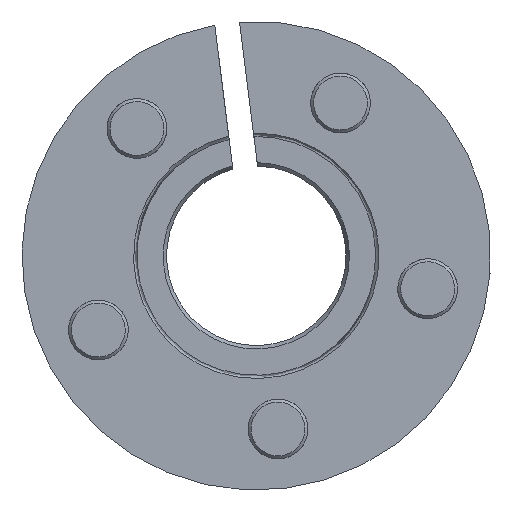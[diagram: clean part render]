
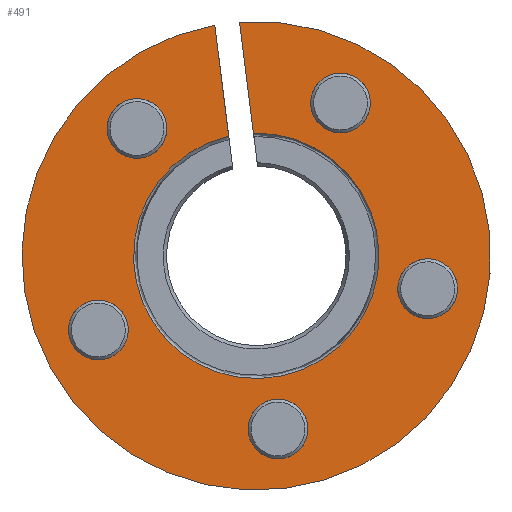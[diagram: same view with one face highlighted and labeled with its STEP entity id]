
A CAD part, left-side view. The second image highlights one B-rep face of the part: STEP entity #491.
In plain terms, the highlighted planar face has unit normal (-1, 0, 0) as drawn and (1, 0, 0) by its records, which use the part's own axes.
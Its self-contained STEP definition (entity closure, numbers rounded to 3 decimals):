
#112=CARTESIAN_POINT('',(17.,23.5,20.5));
#113=VERTEX_POINT('',#112);
#114=CARTESIAN_POINT('',(17.,23.5,17.5));
#115=DIRECTION('',(-1.0,0.0,0.0));
#116=DIRECTION('',(0.0,0.0,-1.0));
#117=AXIS2_PLACEMENT_3D('',#114,#115,#116);
#118=CIRCLE('',#117,3.);
#119=EDGE_CURVE('',#113,#113,#118,.T.);
#140=CARTESIAN_POINT('',(17.,13.214,-11.158));
#141=VERTEX_POINT('',#140);
#142=CARTESIAN_POINT('',(17.,13.214,-14.158));
#143=DIRECTION('',(-1.0,0.0,0.0));
#144=DIRECTION('',(0.0,0.0,-1.0));
#145=AXIS2_PLACEMENT_3D('',#142,#143,#144);
#146=CIRCLE('',#145,3.);
#147=EDGE_CURVE('',#141,#141,#146,.T.);
#168=CARTESIAN_POINT('',(17.,40.143,8.408));
#169=VERTEX_POINT('',#168);
#170=CARTESIAN_POINT('',(17.,40.143,5.408));
#171=DIRECTION('',(-1.0,0.0,0.0));
#172=DIRECTION('',(0.0,0.0,-1.0));
#173=AXIS2_PLACEMENT_3D('',#170,#171,#172);
#174=CIRCLE('',#173,3.0);
#175=EDGE_CURVE('',#169,#169,#174,.T.);
#221=CARTESIAN_POINT('',(17.,24.75,-23.467));
#222=VERTEX_POINT('',#221);
#229=CARTESIAN_POINT('',(17.,24.75,-12.246));
#230=VERTEX_POINT('',#229);
#231=CARTESIAN_POINT('',(17.,24.75,-12.246));
#232=DIRECTION('',(0.0,0.0,-1.0));
#233=VECTOR('',#232,11.22);
#234=LINE('',#231,#233);
#235=EDGE_CURVE('',#230,#222,#234,.T.);
#283=CARTESIAN_POINT('',(17.,22.25,-23.467));
#284=VERTEX_POINT('',#283);
#337=CARTESIAN_POINT('',(17.,22.25,-12.246));
#338=VERTEX_POINT('',#337);
#352=CARTESIAN_POINT('',(17.,22.25,-23.467));
#353=DIRECTION('',(0.0,0.0,1.0));
#354=VECTOR('',#353,11.22);
#355=LINE('',#352,#354);
#356=EDGE_CURVE('',#284,#338,#355,.T.);
#366=CARTESIAN_POINT('',(17.,33.786,-11.158));
#367=VERTEX_POINT('',#366);
#368=CARTESIAN_POINT('',(17.,33.786,-14.158));
#369=DIRECTION('',(-1.0,0.0,0.0));
#370=DIRECTION('',(0.0,0.0,-1.0));
#371=AXIS2_PLACEMENT_3D('',#368,#369,#370);
#372=CIRCLE('',#371,3.0);
#373=EDGE_CURVE('',#367,#367,#372,.T.);
#394=CARTESIAN_POINT('',(17.,6.857,8.408));
#395=VERTEX_POINT('',#394);
#396=CARTESIAN_POINT('',(17.,6.857,5.408));
#397=DIRECTION('',(-1.0,0.0,0.0));
#398=DIRECTION('',(0.0,0.0,-1.0));
#399=AXIS2_PLACEMENT_3D('',#396,#397,#398);
#400=CIRCLE('',#399,3.);
#401=EDGE_CURVE('',#395,#395,#400,.T.);
#423=CARTESIAN_POINT('',(17.,23.5,0.0));
#424=DIRECTION('',(-1.0,0.0,0.0));
#425=DIRECTION('',(0.0,-1.0,0.0));
#426=AXIS2_PLACEMENT_3D('',#423,#424,#425);
#427=CIRCLE('',#426,12.31);
#428=EDGE_CURVE('',#338,#230,#427,.T.);
#455=CARTESIAN_POINT('',(17.,23.5,0.0));
#456=DIRECTION('',(-1.0,0.0,0.0));
#457=DIRECTION('',(0.0,-1.0,0.0));
#458=AXIS2_PLACEMENT_3D('',#455,#456,#457);
#459=CIRCLE('',#458,23.5);
#460=EDGE_CURVE('',#284,#222,#459,.T.);
#465=CARTESIAN_POINT('',(17.,5.595,0.0));
#466=DIRECTION('',(1.0,0.0,0.0));
#467=DIRECTION('',(0.0,0.0,-1.0));
#468=AXIS2_PLACEMENT_3D('',#465,#466,#467);
#469=PLANE('',#468);
#470=ORIENTED_EDGE('',*,*,#235,.T.);
#471=ORIENTED_EDGE('',*,*,#460,.F.);
#472=ORIENTED_EDGE('',*,*,#356,.T.);
#473=ORIENTED_EDGE('',*,*,#428,.T.);
#474=EDGE_LOOP('',(#470,#471,#472,#473));
#475=FACE_OUTER_BOUND('',#474,.T.);
#476=ORIENTED_EDGE('',*,*,#401,.T.);
#477=EDGE_LOOP('',(#476));
#478=FACE_BOUND('',#477,.T.);
#479=ORIENTED_EDGE('',*,*,#373,.T.);
#480=EDGE_LOOP('',(#479));
#481=FACE_BOUND('',#480,.T.);
#482=ORIENTED_EDGE('',*,*,#175,.T.);
#483=EDGE_LOOP('',(#482));
#484=FACE_BOUND('',#483,.T.);
#485=ORIENTED_EDGE('',*,*,#147,.T.);
#486=EDGE_LOOP('',(#485));
#487=FACE_BOUND('',#486,.T.);
#488=ORIENTED_EDGE('',*,*,#119,.T.);
#489=EDGE_LOOP('',(#488));
#490=FACE_BOUND('',#489,.T.);
#491=ADVANCED_FACE('',(#475,#478,#481,#484,#487,#490),#469,.T.);
